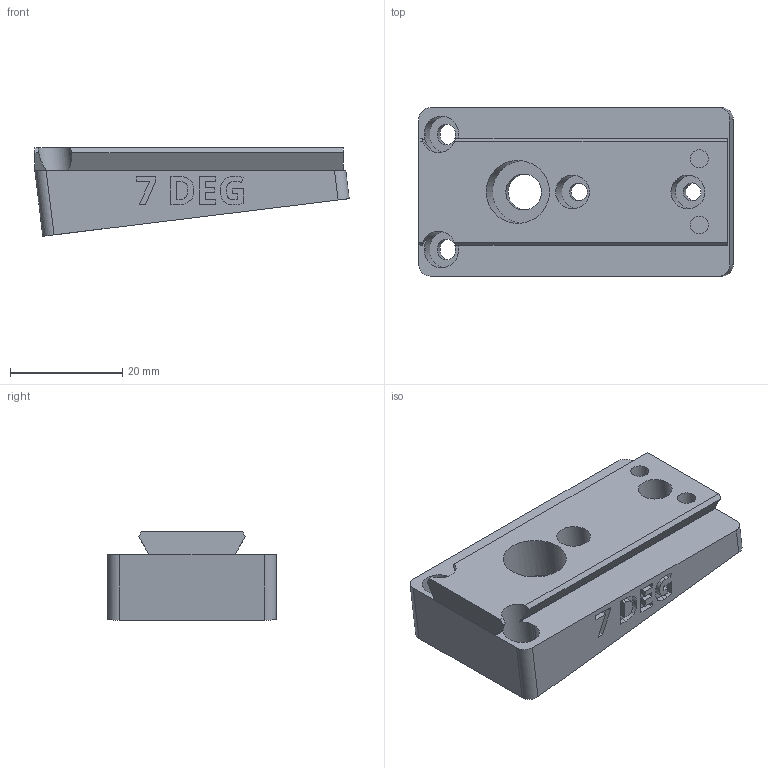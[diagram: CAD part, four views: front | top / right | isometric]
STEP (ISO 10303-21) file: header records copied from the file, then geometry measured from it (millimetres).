
FILE_DESCRIPTION(/* description */ ('STEP AP242 Edition 2','CAx-IF Rec.Pracs.---Representation and Presentation of Product Manufacturing Information (PMI)---4.0---2014-10-13','CAx-IF Rec.Pracs.---3D Tessellated Geometry---0.4---2014-09-14','2;1','CAx-IF Rec.Pracs.---User Defined Attributes---1.5---2016-08-15'),/* implementation_level */ '2;1');
FILE_NAME(/* name */ 'Camera Wedges - CAMERA MOUNTING WEDGE, POS, 7 DEG',/* time_stamp */ '2026-07-08T20:40:56Z',/* author */ (''),/* organization */ (''),/* preprocessor_version */ 'ST-DEVELOPER v20',/* originating_system */ 'ONSHAPE BY PTC INC, 1.217',/* authorisation */ ' ');
FILE_SCHEMA (('AP242_MANAGED_MODEL_BASED_3D_ENGINEERING_MIM_LF { 1 0 10303 442 3 1 4 }'));
Length unit declared in the file: metre
Products named in the file (1): CAMERA MOUNTING WEDGE, POS, 7 DEG
Bounding box: 56.02 x 30 x 15.77 mm (x, y, z)
Volume: 14653.9 mm3; surface area: 6874.4 mm2
Topology: 1 solids, 1 shells, 187 faces, 508 edges, 339 vertices
Faces by surface type: plane 123, cylinder 36, bspline 28
Full cylindrical faces by diameter (mm): 3.2 x4, 6 x2, 6.4 x1, 11.2 x1
Entity records: 5941 total; most frequent: CARTESIAN_POINT 1329, ORIENTED_EDGE 994, DIRECTION 845, EDGE_CURVE 497, LINE 357, VECTOR 357, VERTEX_POINT 336, AXIS2_PLACEMENT_3D 244
